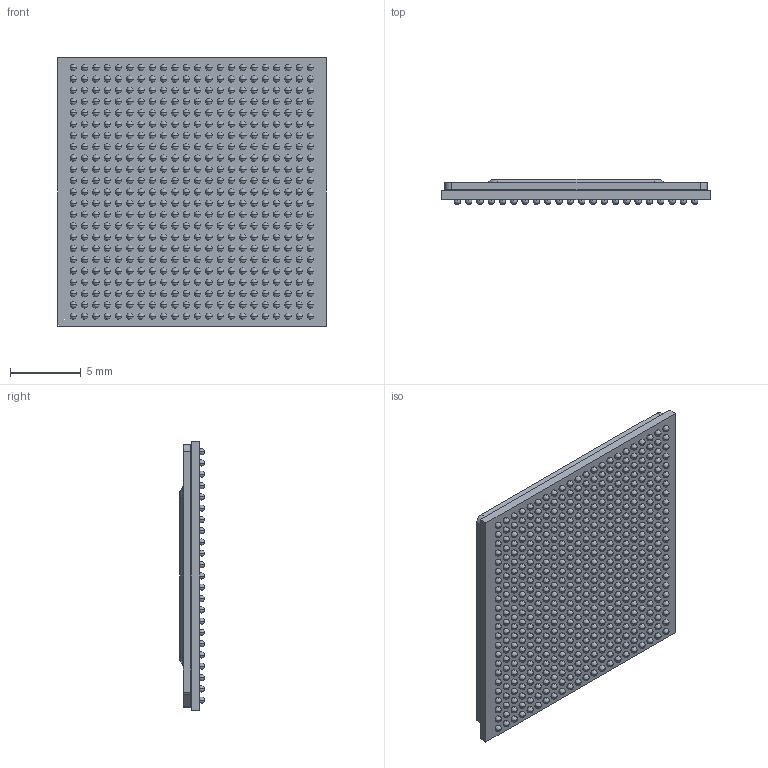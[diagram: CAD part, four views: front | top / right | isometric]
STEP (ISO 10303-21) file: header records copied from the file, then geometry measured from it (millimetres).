
FILE_DESCRIPTION (( 'STEP AP214' ), '1' );
FILE_NAME ('ADRV9030_PALAU_506 BGA 19x19.STEP', '2020-09-16T15:19:24', ( '' ), ( '' ), 'SwSTEP 2.0', 'SolidWorks 2019', '' );
FILE_SCHEMA (( 'AUTOMOTIVE_DESIGN' ));
Length unit declared in the file: millimetre
Products named in the file (5): ADRV9030_PALAU_506 BGA 19x19; laminate; Top Die; Lid; balls
Assembly tree (4 placements, depth 2):
  ADRV9030_PALAU_506 BGA 19x19
    laminate
    balls
    Top Die
    Lid
Bounding box: 19 x 1.76 x 19 mm (x, y, z)
Volume: 443.1 mm3; surface area: 2553.7 mm2
Topology: 512 solids, 512 shells, 1620 faces, 4786 edges, 3180 vertices
Faces by surface type: sphere 1012, plane 558, cylinder 26, torus 16, cone 8
Entity records: 41014 total; most frequent: DIRECTION 7618, CARTESIAN_POINT 5545, ORIENTED_EDGE 4512, AXIS2_PLACEMENT_3D 3735, EDGE_CURVE 2256, CIRCLE 2108, VERTEX_POINT 1662, EDGE_LOOP 1624
